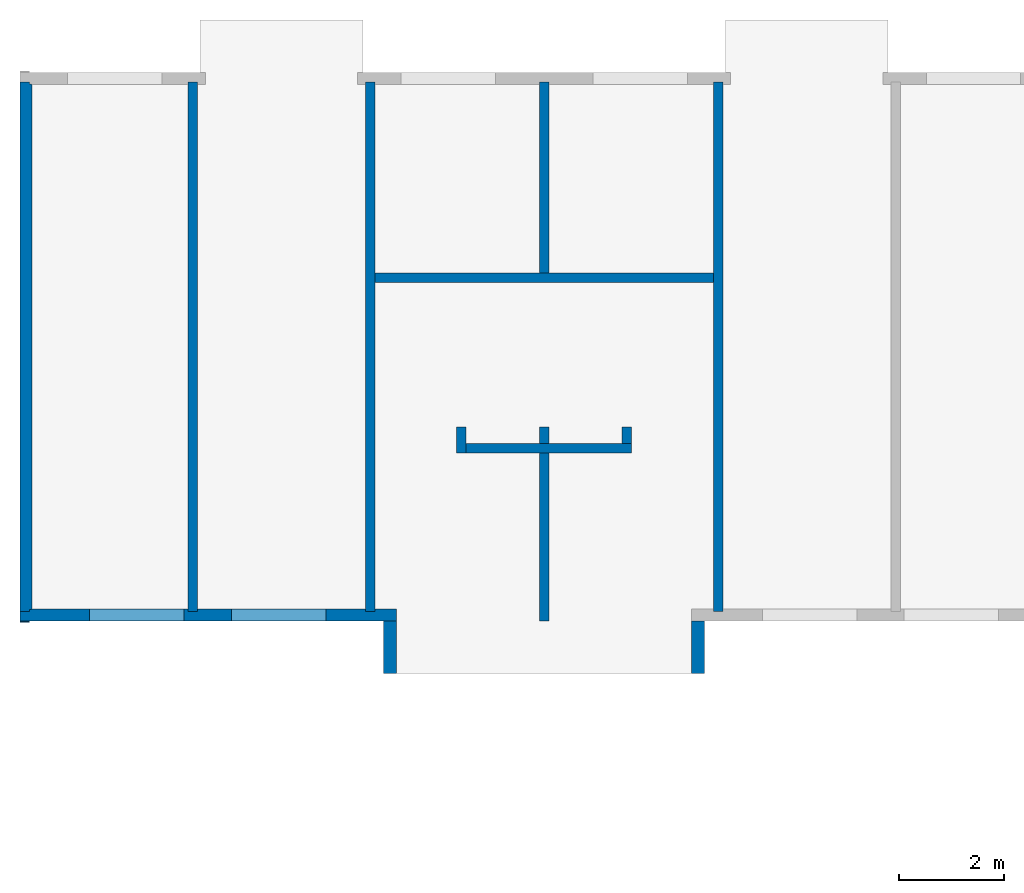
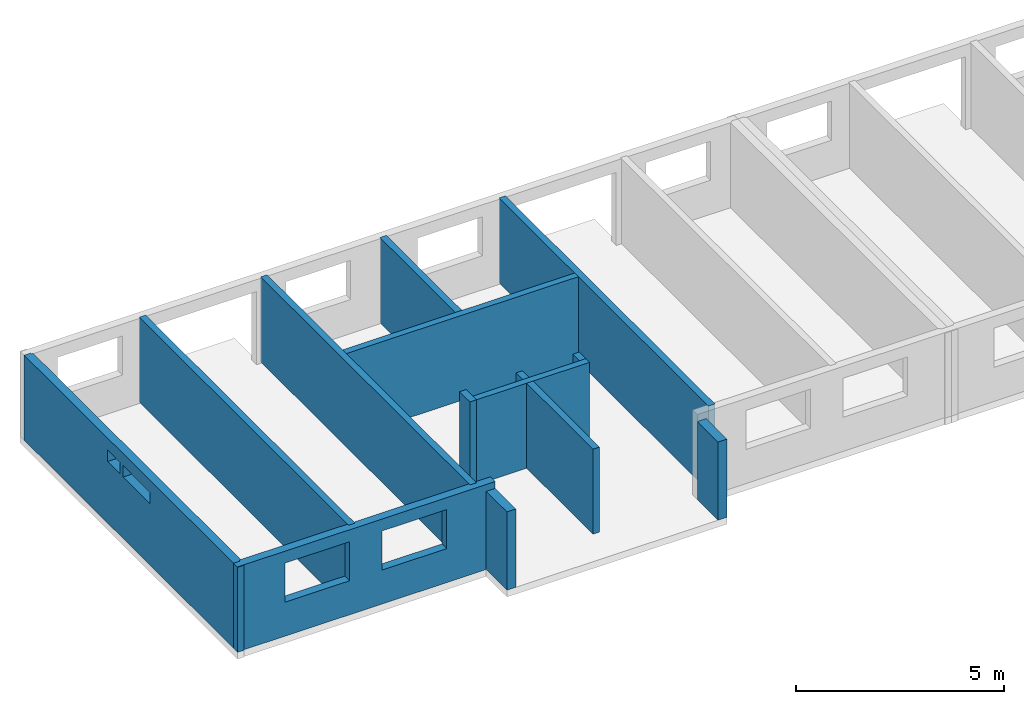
# One storey, part 2 of 9: 15 walls, 4 openings.
"""IFC2X3 building model written with IfcOpenShell, lengths in millimetres."""

from ifc_helpers import new_model, entity, si_unit, converted_unit, frame, frame_2d, origin, origin_with_axes, place, context, subcontext, project, spatial, polyline, rectangle, outline, extrude, material, layer, layer_set, layer_usage, element, save


model = new_model("IFC2X3")

# Units and contexts
model_context = context("Model", 3, precision=1e-05, world=origin())
plan_context = context("Plan", 3, precision=1e-05, world=origin())
body_context = subcontext(model_context, "Body", "Model", "MODEL_VIEW")
ifc_project = project(units=[si_unit("LENGTHUNIT", "METRE", prefix="MILLI"), converted_unit("PLANEANGLEUNIT", "DEGREE", entity("IfcPlaneAngleMeasure", 0.0174532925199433), si_unit("PLANEANGLEUNIT", "RADIAN"), dimensions=[0, 0, 0, 0, 0, 0, 0]), si_unit("AREAUNIT", "SQUARE_METRE"), si_unit("VOLUMEUNIT", "CUBIC_METRE")], contexts=[model_context, plan_context])

# Building, storey
building_placement = place(None, origin())
building = spatial("IfcBuilding", under=ifc_project, at=building_placement, Name="Bâtiment", CompositionType="ELEMENT")
storey_placement = place(building_placement, origin_with_axes())
storey = spatial("IfcBuildingStorey", under=building, at=storey_placement, Name="rdc", CompositionType="ELEMENT", Elevation=0.0)

# Walls
ifc_material_1 = material(Name="moellons")
ifc_layer_1 = layer(ifc_material_1, 20.0775509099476)
ifc_layer_set_1 = layer_set([ifc_layer_1])
ifc_layer_usage_1 = layer_usage(ifc_layer_set_1, "AXIS2", "POSITIVE", 0.0)
wall_1_placement = place(storey_placement, frame((-5.557612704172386e-12, 20.0775509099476, 0.0), z_axis=(0.0, 0.0, 1.0), x_axis=(1.0, -1.836970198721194e-16, 0.0)))
element("IfcWallStandardCase", 1, at=wall_1_placement, inside=storey, material=ifc_layer_usage_1, context=body_context, shape_type="SweptSolid", body=[
    extrude(rectangle(XDim=180.0, YDim=20.0775509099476, at=frame_2d((90.0, 10.0387754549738), x_axis=(1.0, 0.0))), frame((0.0, -20.0775509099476, 0.0), z_axis=(0.0, 0.0, 1.0), x_axis=(1.0, 0.0, 0.0)), (0.0, 0.0, 1.0), 2500.0),
])
ifc_material_2 = material(Name="moellons")
ifc_layer_2 = layer(ifc_material_2, 180.0)
ifc_layer_set_2 = layer_set([ifc_layer_2])
ifc_layer_usage_2 = layer_usage(ifc_layer_set_2, "AXIS2", "POSITIVE", 0.0)
wall_2_placement = place(storey_placement, frame((3380.0, 200.0775509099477, 0.0), z_axis=(0.0, 0.0, 1.0), x_axis=(4.506911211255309e-17, 1.0, 0.0)))
element("IfcWallStandardCase", 2, at=wall_2_placement, inside=storey, material=ifc_layer_usage_2, context=body_context, shape_type="SweptSolid", body=[
    extrude(rectangle(XDim=10090.00021457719, YDim=180.0, at=frame_2d((5045.000107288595, 90.0), x_axis=(1.0, 0.0))), origin_with_axes(), (0.0, 0.0, 1.0), 2500.0),
])
ifc_material_3 = material(Name="moellons")
ifc_layer_3 = layer(ifc_material_3, 180.0)
ifc_layer_set_3 = layer_set([ifc_layer_3])
ifc_layer_usage_3 = layer_usage(ifc_layer_set_3, "AXIS2", "POSITIVE", 0.0)
wall_3_placement = place(storey_placement, frame((6759.999999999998, 200.0775509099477, 0.0), z_axis=(0.0, 0.0, 1.0), x_axis=(0.0, 1.0, 0.0)))
element("IfcWallStandardCase", 3, at=wall_3_placement, inside=storey, material=ifc_layer_usage_3, context=body_context, shape_type="SweptSolid", body=[
    extrude(rectangle(XDim=10090.00021457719, YDim=180.0, at=frame_2d((5045.000107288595, 90.0), x_axis=(1.0, 0.0))), origin_with_axes(), (0.0, 0.0, 1.0), 2500.0),
])
ifc_material_4 = material(Name="moellons")
ifc_layer_4 = layer(ifc_material_4, 180.0)
ifc_layer_set_4 = layer_set([ifc_layer_4])
ifc_layer_usage_4 = layer_usage(ifc_layer_set_4, "AXIS2", "POSITIVE", 0.0)
wall_4_placement = place(storey_placement, frame((13389.99993810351, 200.0775509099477, 0.0), z_axis=(0.0, 0.0, 1.0), x_axis=(0.0, 1.0, 0.0)))
element("IfcWallStandardCase", 4, at=wall_4_placement, inside=storey, material=ifc_layer_usage_4, context=body_context, shape_type="SweptSolid", body=[
    extrude(rectangle(XDim=10090.00021457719, YDim=180.0, at=frame_2d((5045.000107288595, 90.0), x_axis=(1.0, 0.0))), origin_with_axes(), (0.0, 0.0, 1.0), 2500.0),
])
ifc_material_5 = material(Name="moellons")
ifc_layer_5 = layer(ifc_material_5, 180.0)
ifc_layer_set_5 = layer_set([ifc_layer_5])
ifc_layer_usage_5 = layer_usage(ifc_layer_set_5, "AXIS2", "POSITIVE", 0.0)
wall_5_placement = place(storey_placement, frame((10075.0, 20.03821782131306, 0.0), z_axis=(0.0, 0.0, 1.0), x_axis=(0.0, 1.0, 0.0)))
element("IfcWallStandardCase", 5, at=wall_5_placement, inside=storey, material=ifc_layer_usage_5, context=body_context, shape_type="SweptSolid", body=[
    extrude(outline(polyline([(0.0, 0.0), (3200.039547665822, 0.0), (3200.039547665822, 180.0), (0.0007169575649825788, 180.0), (0.0, 0.0)])), origin_with_axes(), (0.0, 0.0, 1.0), 2500.0),
])
ifc_material_6 = material(Name="moellons")
ifc_layer_6 = layer(ifc_material_6, 180.0)
ifc_layer_set_6 = layer_set([ifc_layer_6])
ifc_layer_usage_6 = layer_usage(ifc_layer_set_6, "AXIS2", "POSITIVE", 0.0)
wall_6_placement = place(storey_placement, frame((10075.0, 20.03821782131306, 0.0), z_axis=(0.0, 0.0, 1.0), x_axis=(0.0, 1.0, 0.0)))
element("IfcWallStandardCase", 6, at=wall_6_placement, inside=storey, material=ifc_layer_usage_6, context=body_context, shape_type="SweptSolid", body=[
    extrude(outline(polyline([(3380.039547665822, 0.0), (3700.039547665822, 0.0), (3700.039547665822, 180.0), (3380.039547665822, 180.0), (3380.039547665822, 0.0)])), origin_with_axes(), (0.0, 0.0, 1.0), 2500.0),
])
ifc_material_7 = material(Name="moellons")
ifc_layer_7 = layer(ifc_material_7, 180.0)
ifc_layer_set_7 = layer_set([ifc_layer_7])
ifc_layer_usage_7 = layer_usage(ifc_layer_set_7, "AXIS2", "POSITIVE", 0.0)
wall_7_placement = place(storey_placement, frame((10075.0, 6650.077765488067, 0.0), z_axis=(0.0, 0.0, 1.0), x_axis=(0.0, 1.0, 0.0)))
element("IfcWallStandardCase", 7, at=wall_7_placement, inside=storey, material=ifc_layer_usage_7, context=body_context, shape_type="SweptSolid", body=[
    extrude(rectangle(XDim=3639.999999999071, YDim=180.0, at=frame_2d((1819.999999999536, 90.0), x_axis=(1.0, 0.0))), origin_with_axes(), (0.0, 0.0, 1.0), 2500.0),
])
ifc_material_8 = material(Name="moellons")
ifc_layer_8 = layer(ifc_material_8, 180.0)
ifc_layer_set_8 = layer_set([ifc_layer_8])
ifc_layer_usage_8 = layer_usage(ifc_layer_set_8, "AXIS2", "POSITIVE", 0.0)
wall_8_placement = place(storey_placement, frame((13209.99947974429, 6650.077765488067, 0.0), z_axis=(0.0, 0.0, 1.0), x_axis=(-1.0, 0.0, 0.0)))
element("IfcWallStandardCase", 8, at=wall_8_placement, inside=storey, material=ifc_layer_usage_8, context=body_context, shape_type="SweptSolid", body=[
    extrude(rectangle(XDim=6449.999479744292, YDim=180.0, at=frame_2d((3224.999739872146, 90.0), x_axis=(1.0, 0.0))), origin_with_axes(), (0.0, 0.0, 1.0), 2500.0),
])
ifc_material_9 = material(Name="moellons")
ifc_layer_9 = layer(ifc_material_9, 180.0)
ifc_layer_set_9 = layer_set([ifc_layer_9])
ifc_layer_usage_9 = layer_usage(ifc_layer_set_9, "AXIS2", "POSITIVE", 0.0)
wall_9_placement = place(storey_placement, frame((8499.999453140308, 3220.077765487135, 0.0), z_axis=(0.0, 0.0, 1.0), x_axis=(0.0, 1.0, 0.0)))
element("IfcWallStandardCase", 9, at=wall_9_placement, inside=storey, material=ifc_layer_usage_9, context=body_context, shape_type="SweptSolid", body=[
    extrude(rectangle(XDim=500.0, YDim=180.0, at=frame_2d((250.0, 90.0), x_axis=(1.0, 0.0))), origin_with_axes(), (0.0, 0.0, 1.0), 2500.0),
])
ifc_material_10 = material(Name="moellons")
ifc_layer_10 = layer(ifc_material_10, 180.0)
ifc_layer_set_10 = layer_set([ifc_layer_10])
ifc_layer_usage_10 = layer_usage(ifc_layer_set_10, "AXIS2", "POSITIVE", 0.0)
wall_10_placement = place(storey_placement, frame((11649.99945314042, 3400.077765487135, 0.0), z_axis=(0.0, 0.0, 1.0), x_axis=(-1.0, 0.0, 0.0)))
element("IfcWallStandardCase", 10, at=wall_10_placement, inside=storey, material=ifc_layer_usage_10, context=body_context, shape_type="SweptSolid", body=[
    extrude(rectangle(XDim=3150.000000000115, YDim=180.0, at=frame_2d((1575.000000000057, 90.0), x_axis=(1.0, 0.0))), origin_with_axes(), (0.0, 0.0, 1.0), 2500.0),
])
ifc_material_11 = material(Name="moellons")
ifc_layer_11 = layer(ifc_material_11, 180.0)
ifc_layer_set_11 = layer_set([ifc_layer_11])
ifc_layer_usage_11 = layer_usage(ifc_layer_set_11, "AXIS2", "POSITIVE", 0.0)
wall_11_placement = place(storey_placement, frame((11469.99945314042, 3720.077765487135, 0.0), z_axis=(0.0, 0.0, 1.0), x_axis=(0.0, -1.0, 0.0)))
element("IfcWallStandardCase", 11, at=wall_11_placement, inside=storey, material=ifc_layer_usage_11, context=body_context, shape_type="SweptSolid", body=[
    extrude(rectangle(XDim=320.0, YDim=180.0, at=frame_2d((160.0, 90.0), x_axis=(1.0, 0.0))), origin_with_axes(), (0.0, 0.0, 1.0), 2500.0),
])

# Wall, openings
ifc_material_12 = material(Name="moellons")
ifc_layer_12 = layer(ifc_material_12, 180.0000000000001)
ifc_material_13 = material(Name="briquettes")
ifc_layer_13 = layer(ifc_material_13, 40.0)
ifc_material_14 = material(Name="enduit platre")
ifc_layer_14 = layer(ifc_material_14, 10.0)
ifc_layer_set_12 = layer_set([ifc_layer_12, ifc_layer_13, ifc_layer_14])
ifc_layer_usage_12 = layer_usage(ifc_layer_set_12, "AXIS2", "POSITIVE", 0.0)
wall_12_placement = place(storey_placement, frame((-5.557612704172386e-12, 20.0775509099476, 0.0), z_axis=(0.0, 0.0, 1.0), x_axis=(1.0, 0.0, 0.0)))
wall_12 = element("IfcWallStandardCase", 12, at=wall_12_placement, inside=storey, material=ifc_layer_usage_12, context=body_context, shape_type="SweptSolid", body=[
    extrude(outline(polyline([(6760.000000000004, 230.0000000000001), (6760.000000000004, 180.0000000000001), (6580.000000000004, 180.0000000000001), (6580.000000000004, 230.0000000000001), (3380.000000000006, 230.0000000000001), (3380.000000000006, 180.0000000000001), (3200.000000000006, 180.0000000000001), (3200.000000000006, 230.0000000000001), (220.0000000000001, 230.0000000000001), (220.0000000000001, 220.0000000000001), (180.0000000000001, 220.0000000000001), (180.0000000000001, 180.0000000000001), (3.306546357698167e-14, 180.0000000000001), (0.0, 0.0), (7175.000000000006, 0.0), (7175.000000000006, 230.0000000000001), (6760.000000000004, 230.0000000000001)])), origin_with_axes(), (0.0, 0.0, 1.0), 2500.0),
])
opening_1_placement = place(wall_12_placement, frame((1325.000000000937, 0.0, 1000.0), z_axis=(0.0, 1.0, 0.0), x_axis=(0.0, 0.0, 1.0)))
element("IfcOpeningElement", 13, at=opening_1_placement, cuts=wall_12, Name="Baie de fenêtre", ObjectType="Opening", context=body_context, shape_type="SweptSolid", body=[
    extrude(rectangle(XDim=1150.0, YDim=1800.0, at=frame_2d((575.0, 900.0), x_axis=(1.0, 0.0))), origin_with_axes(), (0.0, 0.0, 1.0), 230.0000000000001),
])
opening_2_placement = place(wall_12_placement, frame((4025.00000000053, 0.0, 1000.0), z_axis=(0.0, 1.0, 0.0), x_axis=(0.0, 0.0, 1.0)))
element("IfcOpeningElement", 14, at=opening_2_placement, cuts=wall_12, Name="Baie de fenêtre", ObjectType="Opening", context=body_context, shape_type="SweptSolid", body=[
    extrude(rectangle(XDim=1150.0, YDim=1800.0, at=frame_2d((575.0, 899.9999999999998), x_axis=(1.0, 0.0))), origin_with_axes(), (0.0, 0.0, 1.0), 230.0),
])

ifc_material_15 = material(Name="moellons")
ifc_layer_15 = layer(ifc_material_15, 180.0)
ifc_material_16 = material(Name="briquettes")
ifc_layer_16 = layer(ifc_material_16, 39.99999999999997)
ifc_material_17 = material(Name="enduit platre")
ifc_layer_17 = layer(ifc_material_17, 10.00000000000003)
ifc_layer_set_13 = layer_set([ifc_layer_15, ifc_layer_16, ifc_layer_17])
ifc_layer_usage_13 = layer_usage(ifc_layer_set_13, "AXIS2", "POSITIVE", 0.0)
wall_13_placement = place(storey_placement, frame((-3.671044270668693e-12, 10290.07776548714, 0.0), z_axis=(0.0, 0.0, 1.0), x_axis=(-1.836970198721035e-16, -1.0, 0.0)))
wall_13 = element("IfcWallStandardCase", 15, at=wall_13_placement, inside=storey, material=ifc_layer_usage_13, context=body_context, shape_type="SweptSolid", body=[
    extrude(outline(polyline([(0.0, 0.0), (10090.00021457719, 0.0), (10090.00021457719, 180.0000000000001), (10050.00021457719, 180.0000000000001), (10050.00021457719, 220.0), (10040.00021457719, 220.0), (10040.00021457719, 230.0), (49.99999999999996, 230.0), (49.99999999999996, 220.0), (39.99999999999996, 220.0), (39.99999999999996, 180.0), (-3.306546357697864e-14, 180.0), (0.0, 0.0)])), origin_with_axes(), (0.0, 0.0, 1.0), 2500.0),
])
opening_3_placement = place(wall_13_placement, frame((4020.000000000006, -7.068193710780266e-28, 1810.0), z_axis=(0.0, 1.0, 0.0), x_axis=(0.0, 0.0, 1.0)))
element("IfcOpeningElement", 16, at=opening_3_placement, cuts=wall_13, Name="Baie de fenêtre", ObjectType="Opening", context=body_context, shape_type="SweptSolid", body=[
    extrude(rectangle(XDim=340.0, YDim=600.0, at=frame_2d((170.0, 300.0), x_axis=(1.0, 0.0))), origin_with_axes(), (0.0, 0.0, 1.0), 230.0),
])
opening_4_placement = place(wall_13_placement, frame((4769.999999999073, 1.009741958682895e-28, 1810.0), z_axis=(0.0, 1.0, 0.0), x_axis=(0.0, 0.0, 1.0)))
element("IfcOpeningElement", 17, at=opening_4_placement, cuts=wall_13, Name="Baie de fenêtre", ObjectType="Opening", context=body_context, shape_type="SweptSolid", body=[
    extrude(rectangle(XDim=340.0, YDim=1300.0, at=frame_2d((170.0, 650.0), x_axis=(1.0, 0.0))), origin_with_axes(), (0.0, 0.0, 1.0), 230.0000000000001),
])

# Walls
ifc_material_18 = material(Name="moellons")
ifc_layer_18 = layer(ifc_material_18, 250.0)
ifc_layer_set_14 = layer_set([ifc_layer_18])
ifc_layer_usage_14 = layer_usage(ifc_layer_set_14, "AXIS2", "POSITIVE", 0.0)
wall_14_placement = place(storey_placement, frame((6925.0, 20.0775509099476, 0.0), z_axis=(0.0, 0.0, 1.0), x_axis=(0.0, -1.0, 0.0)))
element("IfcWallStandardCase", 18, at=wall_14_placement, inside=storey, material=ifc_layer_usage_14, context=body_context, shape_type="SweptSolid", body=[
    extrude(rectangle(XDim=999.9997854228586, YDim=250.0, at=frame_2d((499.9998927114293, 125.0), x_axis=(1.0, 0.0))), origin_with_axes(), (0.0, 0.0, 1.0), 2300.000000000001),
])
ifc_material_19 = material(Name="moellons")
ifc_layer_19 = layer(ifc_material_19, 250.0)
ifc_layer_set_15 = layer_set([ifc_layer_19])
ifc_layer_usage_15 = layer_usage(ifc_layer_set_15, "AXIS2", "POSITIVE", 0.0)
wall_15_placement = place(storey_placement, frame((12795.00000000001, 20.16279356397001, 0.0), z_axis=(0.0, 0.0, 1.0), x_axis=(0.0, -1.0, 0.0)))
element("IfcWallStandardCase", 19, at=wall_15_placement, inside=storey, material=ifc_layer_usage_15, context=body_context, shape_type="SweptSolid", body=[
    extrude(rectangle(XDim=999.999785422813, YDim=250.0, at=frame_2d((499.9998927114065, 125.0), x_axis=(1.0, 0.0))), origin_with_axes(), (0.0, 0.0, 1.0), 2300.000000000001),
])

save(model, "model.ifc")
